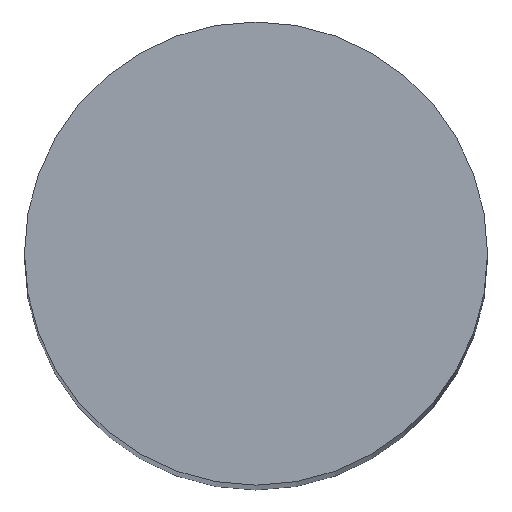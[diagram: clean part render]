
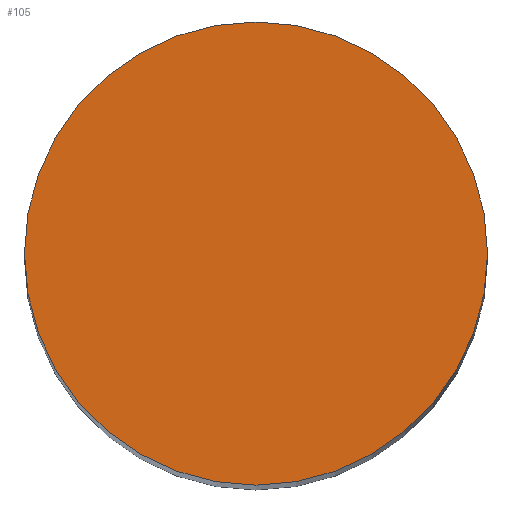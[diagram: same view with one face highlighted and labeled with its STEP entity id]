
A CAD part, top view. The second image highlights one B-rep face of the part: STEP entity #105.
In plain terms, the highlighted planar face has unit normal (0, 0, 1).
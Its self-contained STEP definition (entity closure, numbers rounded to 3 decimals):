
#21 = EDGE_CURVE('',#22,#22,#24,.T.);
#22 = VERTEX_POINT('',#23);
#23 = CARTESIAN_POINT('',(8.,0.,8.));
#24 = SURFACE_CURVE('',#25,(#30,#42),.PCURVE_S1.);
#25 = CIRCLE('',#26,8.);
#26 = AXIS2_PLACEMENT_3D('',#27,#28,#29);
#27 = CARTESIAN_POINT('',(0.,0.,8.));
#28 = DIRECTION('',(0.,0.,1.));
#29 = DIRECTION('',(1.,0.,-0.));
#30 = PCURVE('',#31,#36);
#31 = CYLINDRICAL_SURFACE('',#32,8.);
#32 = AXIS2_PLACEMENT_3D('',#33,#34,#35);
#33 = CARTESIAN_POINT('',(0.,0.,-88.));
#34 = DIRECTION('',(0.,0.,1.));
#35 = DIRECTION('',(1.,0.,-0.));
#36 = DEFINITIONAL_REPRESENTATION('',(#37),#41);
#37 = LINE('',#38,#39);
#38 = CARTESIAN_POINT('',(0.,96.));
#39 = VECTOR('',#40,1.);
#40 = DIRECTION('',(1.,0.));
#41 = ( GEOMETRIC_REPRESENTATION_CONTEXT(2) 
PARAMETRIC_REPRESENTATION_CONTEXT() REPRESENTATION_CONTEXT('2D SPACE',''
  ) );
#42 = PCURVE('',#43,#48);
#43 = PLANE('',#44);
#44 = AXIS2_PLACEMENT_3D('',#45,#46,#47);
#45 = CARTESIAN_POINT('',(0.,0.,8.));
#46 = DIRECTION('',(0.,0.,1.));
#47 = DIRECTION('',(1.,0.,-0.));
#48 = DEFINITIONAL_REPRESENTATION('',(#49),#53);
#49 = CIRCLE('',#50,8.);
#50 = AXIS2_PLACEMENT_2D('',#51,#52);
#51 = CARTESIAN_POINT('',(0.,0.));
#52 = DIRECTION('',(1.,0.));
#53 = ( GEOMETRIC_REPRESENTATION_CONTEXT(2) 
PARAMETRIC_REPRESENTATION_CONTEXT() REPRESENTATION_CONTEXT('2D SPACE',''
  ) );
#105 = ADVANCED_FACE('',(#106),#43,.T.);
#106 = FACE_BOUND('',#107,.T.);
#107 = EDGE_LOOP('',(#108));
#108 = ORIENTED_EDGE('',*,*,#21,.T.);
